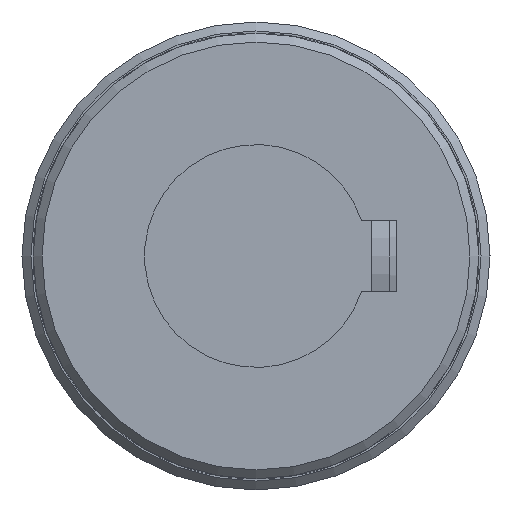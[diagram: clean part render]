
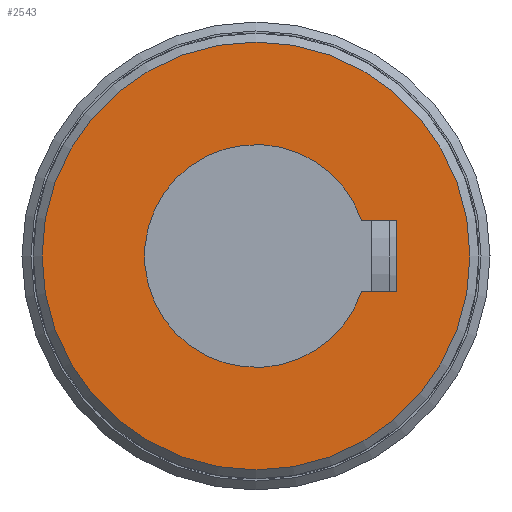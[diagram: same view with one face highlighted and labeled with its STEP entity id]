
A CAD part, left-side view. The second image highlights one B-rep face of the part: STEP entity #2543.
In plain terms, the highlighted planar face has unit normal (-1, 0, 0) as drawn and (0, -1, 0) by its records, which use the part's own axes.
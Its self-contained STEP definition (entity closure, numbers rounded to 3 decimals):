
#74=FACE_BOUND('',#413,.T.);
#249=FACE_OUTER_BOUND('',#412,.T.);
#412=EDGE_LOOP('',(#1764));
#413=EDGE_LOOP('',(#1765,#1766,#1767,#1768));
#637=CIRCLE('',#2702,12.5);
#643=CIRCLE('',#2713,24.);
#767=LINE('',#3757,#920);
#771=LINE('',#3784,#924);
#773=LINE('',#3792,#926);
#920=VECTOR('',#3004,3.957);
#924=VECTOR('',#3016,8.);
#926=VECTOR('',#3020,3.957);
#1074=VERTEX_POINT('',#3754);
#1075=VERTEX_POINT('',#3756);
#1078=VERTEX_POINT('',#3766);
#1080=VERTEX_POINT('',#3782);
#1089=VERTEX_POINT('',#3869);
#1343=EDGE_CURVE('',#1075,#1074,#767,.T.);
#1347=EDGE_CURVE('',#1078,#1075,#637,.T.);
#1351=EDGE_CURVE('',#1074,#1080,#771,.T.);
#1354=EDGE_CURVE('',#1080,#1078,#773,.T.);
#1364=EDGE_CURVE('',#1089,#1089,#643,.T.);
#1764=ORIENTED_EDGE('',*,*,#1364,.F.);
#1765=ORIENTED_EDGE('',*,*,#1343,.T.);
#1766=ORIENTED_EDGE('',*,*,#1351,.T.);
#1767=ORIENTED_EDGE('',*,*,#1354,.T.);
#1768=ORIENTED_EDGE('',*,*,#1347,.T.);
#2456=PLANE('',#2715);
#2543=ADVANCED_FACE('',(#249,#74),#2456,.F.);
#2702=AXIS2_PLACEMENT_3D('',#3767,#3010,#3011);
#2713=AXIS2_PLACEMENT_3D('',#3870,#3037,#3038);
#2715=AXIS2_PLACEMENT_3D('',#4078,#3045,#3046);
#3004=DIRECTION('',(0.,0.,-1.));
#3010=DIRECTION('center_axis',(0.,1.,0.));
#3011=DIRECTION('ref_axis',(-0.32,0.,0.947));
#3016=DIRECTION('',(-1.,0.,0.));
#3020=DIRECTION('',(0.,0.,1.));
#3037=DIRECTION('center_axis',(0.,1.,0.));
#3038=DIRECTION('ref_axis',(1.,0.,0.));
#3045=DIRECTION('center_axis',(0.,1.,0.));
#3046=DIRECTION('ref_axis',(0.,0.,1.));
#3754=CARTESIAN_POINT('',(4.,-66.5,-15.8));
#3756=CARTESIAN_POINT('',(4.,-66.5,-11.843));
#3757=CARTESIAN_POINT('',(4.,-66.5,-5.921));
#3766=CARTESIAN_POINT('',(-4.,-66.5,-11.843));
#3767=CARTESIAN_POINT('Origin',(0.,-66.5,0.));
#3782=CARTESIAN_POINT('',(-4.,-66.5,-15.8));
#3784=CARTESIAN_POINT('',(2.,-66.5,-15.8));
#3792=CARTESIAN_POINT('',(-4.,-66.5,-7.9));
#3869=CARTESIAN_POINT('',(-24.,-66.5,0.));
#3870=CARTESIAN_POINT('Origin',(0.,-66.5,0.));
#4078=CARTESIAN_POINT('Origin',(0.,-66.5,0.));
